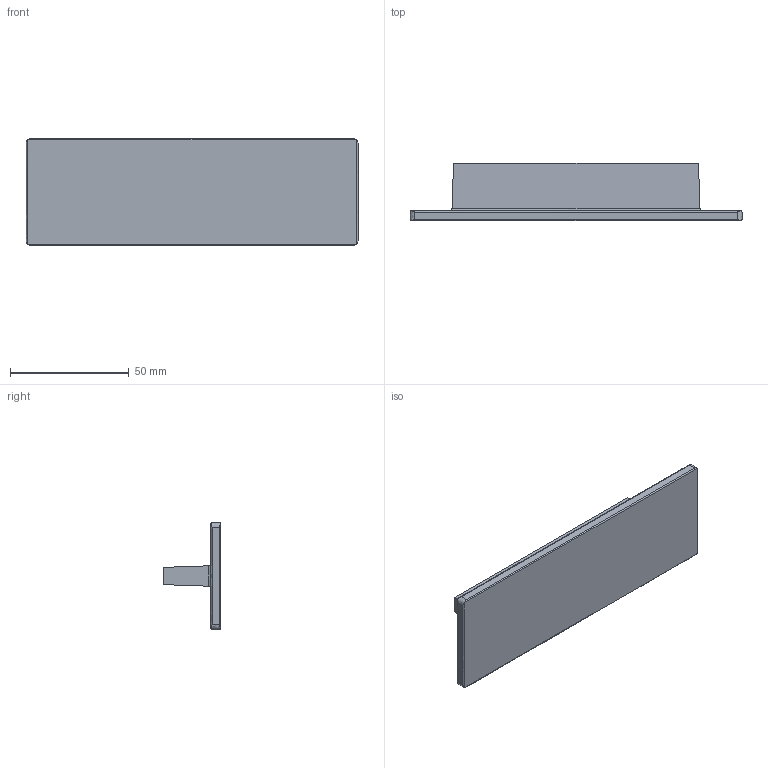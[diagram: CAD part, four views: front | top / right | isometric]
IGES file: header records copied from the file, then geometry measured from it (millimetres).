
Start section: Data from Parasolid IGES Translator 15.0.47, Copyright(c) 2006 Siemens P LM Software. All Rights Reserved.
Global section: file name: 9113350.igs; native system:  By UGS Corp.; preprocessor: XPlus GENERIC/IGES 3.0; author: Noname; organization: Noname; date: 20140123.103439; units: millimetre
Bounding box: 140 x 24 x 45 mm (x, y, z)
Surface area: 18920.5 mm2 (no closed solid volume)
Topology: 0 solids, 0 shells, 41 faces, 196 edges, 194 vertices
Faces by surface type: extrusion 23, revolution 18
